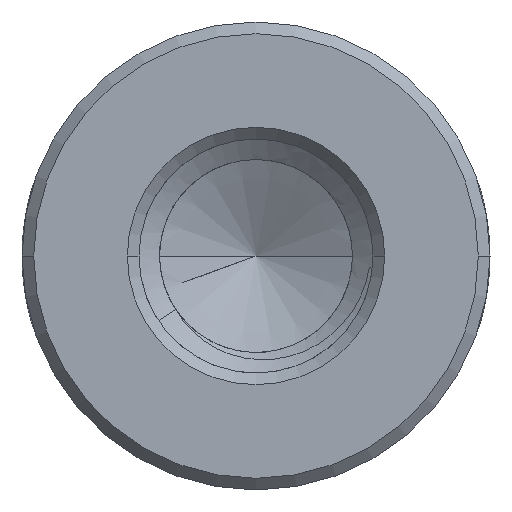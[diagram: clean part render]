
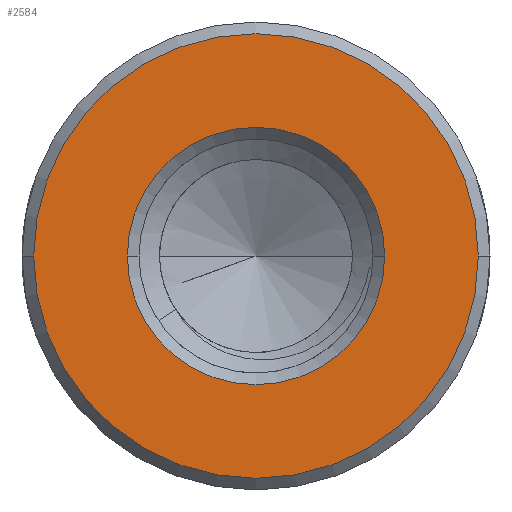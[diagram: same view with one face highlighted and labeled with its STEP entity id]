
A CAD part, front view. The second image highlights one B-rep face of the part: STEP entity #2584.
In plain terms, the highlighted planar face has unit normal (0, -1, 0).
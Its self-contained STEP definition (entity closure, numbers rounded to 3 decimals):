
#1=CARTESIAN_POINT('',(0.,-25.,0.));
#2=DIRECTION('',(0.,-1.,0.));
#3=DIRECTION('',(-1.,0.,0.));
#4=AXIS2_PLACEMENT_3D('',#1,#2,#3);
#6=CARTESIAN_POINT('',(0.,-25.,0.));
#7=DIRECTION('',(0.,-1.,0.));
#8=DIRECTION('',(1.,0.,0.));
#9=AXIS2_PLACEMENT_3D('',#6,#7,#8);
#11=CARTESIAN_POINT('',(0.,-25.,0.));
#12=DIRECTION('',(0.,1.,0.));
#13=DIRECTION('',(-1.,0.,0.));
#14=AXIS2_PLACEMENT_3D('',#11,#12,#13);
#16=CARTESIAN_POINT('',(0.,-25.,0.));
#17=DIRECTION('',(0.,1.,0.));
#18=DIRECTION('',(1.,0.,0.));
#19=AXIS2_PLACEMENT_3D('',#16,#17,#18);
#2422=CARTESIAN_POINT('',(-5.7,-25.,0.));
#2423=CARTESIAN_POINT('',(5.7,-25.,0.));
#2424=VERTEX_POINT('',#2422);
#2425=VERTEX_POINT('',#2423);
#2556=CARTESIAN_POINT('',(-3.3,-25.,0.));
#2557=CARTESIAN_POINT('',(3.3,-25.,0.));
#2558=VERTEX_POINT('',#2556);
#2559=VERTEX_POINT('',#2557);
#2567=CARTESIAN_POINT('',(0.,-25.,0.));
#2568=DIRECTION('',(0.,1.,0.));
#2569=DIRECTION('',(1.,0.,0.));
#2570=AXIS2_PLACEMENT_3D('',#2567,#2568,#2569);
#2571=PLANE('',#2570);
#2573=ORIENTED_EDGE('',*,*,#2572,.F.);
#2575=ORIENTED_EDGE('',*,*,#2574,.F.);
#2576=EDGE_LOOP('',(#2573,#2575));
#2577=FACE_OUTER_BOUND('',#2576,.F.);
#2579=ORIENTED_EDGE('',*,*,#2578,.F.);
#2581=ORIENTED_EDGE('',*,*,#2580,.F.);
#2582=EDGE_LOOP('',(#2579,#2581));
#2583=FACE_BOUND('',#2582,.F.);
#2584=ADVANCED_FACE('',(#2577,#2583),#2571,.F.);
#5=CIRCLE('',#4,5.7);
#10=CIRCLE('',#9,5.7);
#15=CIRCLE('',#14,3.3);
#20=CIRCLE('',#19,3.3);
#2572=EDGE_CURVE('',#2424,#2425,#5,.T.);
#2574=EDGE_CURVE('',#2425,#2424,#10,.T.);
#2578=EDGE_CURVE('',#2558,#2559,#15,.T.);
#2580=EDGE_CURVE('',#2559,#2558,#20,.T.);
